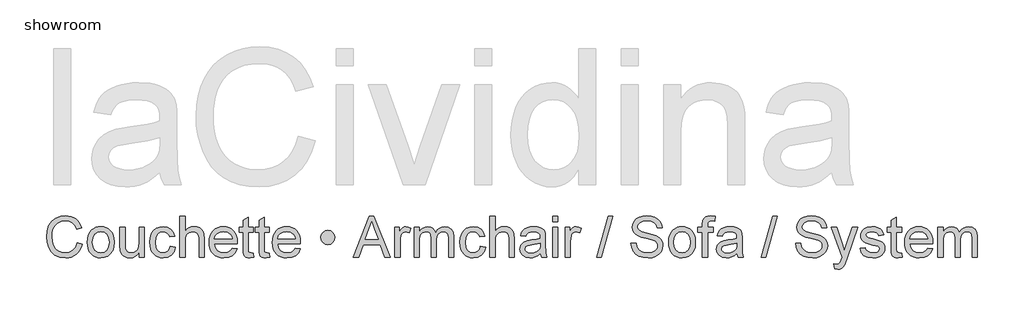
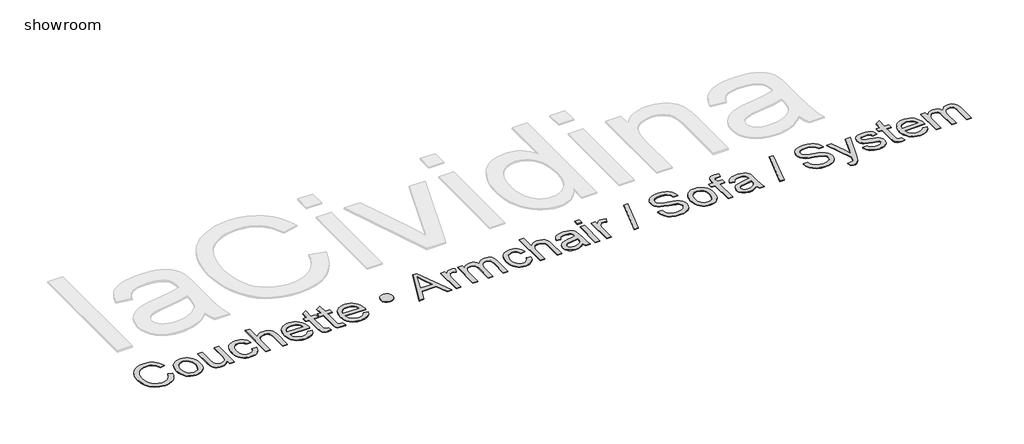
# One storey, part 4 of 5: 1 proxy.
"""IFC4 building model written with IfcOpenShell, lengths in millimetres."""

from ifc_helpers import new_model, si_unit, origin, origin_with_axes, place, context, project, spatial, polyline, outline, extrude, element, save

model = new_model("IFC4")

# Units and contexts
model_context = context("Model", 3, world=origin())
ifc_project = project(units=[si_unit("LENGTHUNIT", "METRE", prefix="MILLI")], contexts=[model_context])

# Site, building, storey
site = spatial("IfcSite", under=ifc_project)
building = spatial("IfcBuilding", under=site)
storey = spatial("IfcBuildingStorey", under=building, Name="showroom", Elevation=0.0)

# Proxy
placement = place(None, origin())
element("IfcBuildingElementProxy", 1, Name="300mm Arial", ObjectType="300mm Arial", at=placement, inside=storey, context=model_context, shape_type="SweptSolid", body=[
    extrude(outline(polyline([(-1778.4620684, 4267.2293177), (-1740.7909521, 4257.517233), (-1748.245161, 4234.0900477), (-1758.1733764, 4213.6197139), (-1770.5755981, 4196.1062317), (-1785.4518263, 4181.549601), (-1802.4663686, 4170.1061717), (-1821.2835327, 4161.9322936), (-1841.9033185, 4157.0279667), (-1864.3257261, 4155.3931911), (-1908.0209101, 4160.341204), (-1942.7213793, 4175.1852425), (-1969.3192475, 4199.4102719), (-1988.7066287, 4232.5012573), (-2000.5432319, 4271.4047783), (-2004.4887662, 4313.0674143), (-2000.0281971, 4357.0109186), (-1986.6464895, 4394.9579464), (-1965.0426193, 4425.7036841), (-1935.9155623, 4448.0433183), (-1901.371443, 4461.6457551), (-1863.5163857, 4466.1799007), (-1822.2124347, 4460.3121828), (-1804.2436985, 4452.9775356), (-1788.0637885, 4442.7090294), (-1773.9394191, 4429.7779772), (-1762.1373049, 4414.4556921), (-1745.4998416, 4376.637423), (-1783.170958, 4367.6611024), (-1796.2307688, 4395.1326903), (-1814.0730455, 4413.9774455), (-1836.9185174, 4424.8759497), (-1864.9879137, 4428.5087844), (-1897.3431352, 4424.4804765), (-1923.9226093, 4412.395553), (-1944.0917397, 4393.5232066), (-1957.2159299, 4369.1326303), (-1964.4172199, 4341.5598748), (-1966.8176499, 4313.1409907), (-1963.9757615, 4278.3393539), (-1955.4500963, 4248.2466067), (-1940.9187575, 4224.0123803), (-1920.0598484, 4206.7863059), (-1895.0530697, 4196.494807), (-1868.0781224, 4193.0643074), (-1836.6334089, 4197.7364088), (-1810.4310138, 4211.7527128), (-1790.6481595, 4234.9660667), (-1778.4620684, 4267.2293177)])), origin_with_axes(), (0.0, 0.0, 1.0), 5.0),
    extrude(outline(polyline([(-1703.1198358, 4270.7609848), (-1701.0826893, 4299.4235908), (-1694.9712496, 4324.1222682), (-1684.7855169, 4344.8570172), (-1670.525491, 4361.6278376), (-1656.1688962, 4372.3469993), (-1640.3223792, 4380.0035433), (-1622.9859402, 4384.5974697), (-1604.1595791, 4386.1287785), (-1583.3765456, 4384.2640766), (-1564.5846735, 4378.6699711), (-1547.7839626, 4369.3464617), (-1532.974413, 4356.2935487), (-1520.8871902, 4339.9526903), (-1512.2534597, 4320.765345), (-1507.0732213, 4298.7315128), (-1505.3464752, 4273.8511936), (-1508.3998958, 4235.7938012), (-1517.5601574, 4206.8230941), (-1532.5605458, 4185.1272534), (-1553.1343464, 4168.8944604), (-1577.5709079, 4158.7685084), (-1604.1595791, 4155.3931911), (-1625.2461152, 4157.2509952), (-1644.2127313, 4162.8244074), (-1661.0594274, 4172.1134278), (-1675.7862036, 4185.1180563), (-1687.7446677, 4201.6175638), (-1696.2864277, 4221.3912211), (-1701.4114838, 4244.4390281), (-1703.1198358, 4270.7609848)]), holes=[polyline([(-1665.4487195, 4270.8345612), (-1661.0893179, 4236.7410973), (-1648.0111129, 4212.4516886), (-1628.3294262, 4197.9111527), (-1604.1595791, 4193.0643074), (-1580.1000966, 4197.9387439), (-1560.4551981, 4212.5620532), (-1547.3769931, 4237.1733587), (-1543.0175915, 4272.0117836), (-1547.4045843, 4305.1119661), (-1560.5655627, 4329.0702811), (-1580.2380524, 4343.6108169), (-1604.1595791, 4348.4576622), (-1628.3294262, 4343.629211), (-1648.0111129, 4329.1438575), (-1661.0893179, 4304.909631), (-1665.4487195, 4270.8345612)])]), origin_with_axes(), (0.0, 0.0, 1.0), 5.0),
    extrude(outline(polyline([(-1321.6997832, 4160.1020807), (-1321.6997832, 4198.141079), (-1335.3298111, 4179.438878), (-1351.2039192, 4166.0801631), (-1369.3221075, 4158.0649341), (-1389.6843759, 4155.3931911), (-1408.0324904, 4157.2693893), (-1425.111412, 4162.8979838), (-1439.4404158, 4171.3592697), (-1449.5387765, 4181.733542), (-1460.7591774, 4209.4718444), (-1462.9664693, 4244.4942104), (-1462.9664693, 4381.419889), (-1425.295353, 4381.419889), (-1425.295353, 4262.2261225), (-1423.0144847, 4223.8192422), (-1417.5238459, 4211.0077518), (-1408.1152639, 4201.2680759), (-1395.414138, 4195.1152496), (-1380.0458676, 4193.0643074), (-1363.7946805, 4195.1612348), (-1348.591957, 4201.4520169), (-1336.0563781, 4211.3572396), (-1327.8066243, 4224.2974888), (-1323.2264935, 4242.0202039), (-1321.6997832, 4266.2728245), (-1321.6997832, 4381.419889), (-1284.0286669, 4381.419889), (-1284.0286669, 4160.1020807), (-1321.6997832, 4160.1020807)])), origin_with_axes(), (0.0, 0.0, 1.0), 5.0),
    extrude(outline(polyline([(-1090.9641958, 4240.1532028), (-1053.2930795, 4235.4443133), (-1063.7961105, 4201.9394606), (-1083.5329795, 4176.6199823), (-1110.6458826, 4160.6998889), (-1143.2770155, 4155.3931911), (-1164.4049384, 4157.2440974), (-1183.3485619, 4162.7968163), (-1200.107886, 4172.0513477), (-1214.6829108, 4185.0076917), (-1226.4804265, 4201.4221265), (-1234.9072235, 4221.0509302), (-1239.9633017, 4243.8941029), (-1241.6486611, 4269.9516444), (-1238.7699844, 4303.4748912), (-1230.1339546, 4332.5283718), (-1215.6026158, 4355.9900461), (-1195.0380123, 4372.7378739), (-1170.4359038, 4382.7810524), (-1143.7920503, 4386.1287785), (-1111.9610607, 4381.5302536), (-1086.5128237, 4367.7346787), (-1068.2566797, 4345.477818), (-1058.0019691, 4315.4954354), (-1095.6730854, 4310.7865459), (-1102.5064934, 4327.221674), (-1113.1474801, 4339.0030949), (-1127.0074343, 4346.0940204), (-1143.4977447, 4348.4576622), (-1167.8423358, 4343.803955), (-1187.1653376, 4329.8428332), (-1199.774493, 4305.820139), (-1203.9775447, 4270.981714), (-1199.8664634, 4235.6742395), (-1187.5332196, 4211.5687718), (-1168.5597057, 4197.6904235), (-1144.5278143, 4193.0643074), (-1125.0208715, 4195.9521811), (-1109.0272018, 4204.6158021), (-1097.3929337, 4219.2758996), (-1090.9641958, 4240.1532028)])), origin_with_axes(), (0.0, 0.0, 1.0), 5.0),
    extrude(outline(polyline([(-1020.3308528, 4160.1020807), (-1020.3308528, 4461.4710111), (-982.6597364, 4461.4710111), (-982.6597364, 4350.6649542), (-968.8227749, 4366.1803773), (-953.2843591, 4377.2628224), (-936.0444891, 4383.9122895), (-917.1031649, 4386.1287785), (-894.3496635, 4383.7099544), (-874.7967355, 4376.453482), (-859.400874, 4364.9295785), (-849.1185722, 4349.708461), (-843.3244308, 4328.7943696), (-841.3930503, 4300.1915444), (-841.3930503, 4160.1020807), (-879.0641666, 4160.1020807), (-879.0641666, 4296.2919953), (-882.0624049, 4319.8732312), (-891.0571196, 4336.0232508), (-905.5516703, 4345.3490593), (-925.049416, 4348.4576622), (-940.9695093, 4346.3607348), (-955.9147154, 4340.0699527), (-968.2939445, 4330.1923211), (-976.5161071, 4317.3348454), (-981.1238291, 4300.2467267), (-982.6597364, 4277.6771663), (-982.6597364, 4160.1020807), (-1020.3308528, 4160.1020807)])), origin_with_axes(), (0.0, 0.0, 1.0), 5.0),
    extrude(outline(polyline([(-634.643369, 4226.0265342), (-597.7080167, 4221.3176447), (-611.0161479, 4193.4873717), (-632.252136, 4172.6836449), (-660.9377346, 4159.7158046), (-696.594697, 4155.3931911), (-719.9689993, 4157.257893), (-740.7957187, 4162.8519986), (-759.0748554, 4172.1755079), (-774.8064092, 4185.2284209), (-787.4569513, 4201.6474542), (-796.4930528, 4221.0693243), (-801.9147137, 4243.4940312), (-803.721934, 4268.9215748), (-801.8963196, 4295.2113419), (-796.4194764, 4318.3833091), (-787.2914044, 4338.4374764), (-774.5121036, 4355.3738437), (-758.8219365, 4368.8291277), (-740.9612656, 4378.4400448), (-720.930091, 4384.2065951), (-698.7284126, 4386.1287785), (-677.2418048, 4384.2111936), (-657.8107377, 4378.4584389), (-640.4352112, 4368.8705144), (-625.1152253, 4355.4474201), (-612.6095368, 4338.547841), (-603.6769021, 4318.5304619), (-598.3173212, 4295.3952829), (-596.5307943, 4269.142304), (-596.7515235, 4258.988761), (-766.0508177, 4258.988761), (-759.5301093, 4230.790606), (-744.3825682, 4210.0604556), (-722.5211806, 4197.3133445), (-695.858933, 4193.0643074), (-675.8093643, 4195.0324761), (-658.9235807, 4200.9369821), (-645.2015823, 4211.1457075), (-634.643369, 4226.0265342)]), holes=[polyline([(-766.0508177, 4296.6598773), (-634.2019106, 4296.6598773), (-639.2970762, 4316.5622932), (-649.2850724, 4330.7993264), (-671.2476275, 4344.0430783), (-698.8755654, 4348.4576622), (-724.2686201, 4344.9351921), (-745.265485, 4334.3677818), (-759.8612031, 4317.8958655), (-766.0508177, 4296.6598773)])]), origin_with_axes(), (0.0, 0.0, 1.0), 5.0),
    extrude(outline(polyline([(-478.8085559, 4191.5192031), (-474.0996663, 4158.9984347), (-502.2794271, 4155.3931911), (-520.3608272, 4156.9566896), (-533.8437023, 4161.6471851), (-543.371846, 4168.8760663), (-549.5890517, 4178.054722), (-553.0103543, 4193.8184655), (-554.1507885, 4220.8026099), (-554.1507885, 4343.7487727), (-582.4041257, 4343.7487727), (-582.4041257, 4381.419889), (-554.1507885, 4381.419889), (-554.1507885, 4435.2042367), (-516.4796722, 4457.3507328), (-516.4796722, 4381.419889), (-478.8085559, 4381.419889), (-478.8085559, 4343.7487727), (-516.4796722, 4343.7487727), (-516.4796722, 4221.9062559), (-514.4931094, 4202.4820865), (-508.0551745, 4195.6026932), (-495.2160928, 4193.0643074), (-478.8085559, 4191.5192031)])), origin_with_axes(), (0.0, 0.0, 1.0), 5.0),
    extrude(outline(polyline([(-361.0863174, 4191.5192031), (-356.3774279, 4158.9984347), (-384.5571887, 4155.3931911), (-402.6385888, 4156.9566896), (-416.1214639, 4161.6471851), (-425.6496075, 4168.8760663), (-431.8668133, 4178.054722), (-435.2881158, 4193.8184655), (-436.42855, 4220.8026099), (-436.42855, 4343.7487727), (-464.6818872, 4343.7487727), (-464.6818872, 4381.419889), (-436.42855, 4381.419889), (-436.42855, 4435.2042367), (-398.7574337, 4457.3507328), (-398.7574337, 4381.419889), (-361.0863174, 4381.419889), (-361.0863174, 4343.7487727), (-398.7574337, 4343.7487727), (-398.7574337, 4221.9062559), (-396.7708709, 4202.4820865), (-390.332936, 4195.6026932), (-377.4938544, 4193.0643074), (-361.0863174, 4191.5192031)])), origin_with_axes(), (0.0, 0.0, 1.0), 5.0),
    extrude(outline(polyline([(-168.4633047, 4226.0265342), (-131.5279524, 4221.3176447), (-144.8360836, 4193.4873717), (-166.0720718, 4172.6836449), (-194.7576703, 4159.7158046), (-230.4146327, 4155.3931911), (-253.788935, 4157.257893), (-274.6156544, 4162.8519986), (-292.8947911, 4172.1755079), (-308.6263449, 4185.2284209), (-321.276887, 4201.6474542), (-330.3129885, 4221.0693243), (-335.7346494, 4243.4940312), (-337.5418697, 4268.9215748), (-335.7162553, 4295.2113419), (-330.2394121, 4318.3833091), (-321.1113401, 4338.4374764), (-308.3320393, 4355.3738437), (-292.6418722, 4368.8291277), (-274.7812013, 4378.4400448), (-254.7500267, 4384.2065951), (-232.5483483, 4386.1287785), (-211.0617405, 4384.2111936), (-191.6306734, 4378.4584389), (-174.2551469, 4368.8705144), (-158.935161, 4355.4474201), (-146.4294725, 4338.547841), (-137.4968378, 4318.5304619), (-132.137257, 4295.3952829), (-130.35073, 4269.142304), (-130.5714592, 4258.988761), (-299.8707534, 4258.988761), (-293.350045, 4230.790606), (-278.2025039, 4210.0604556), (-256.3411163, 4197.3133445), (-229.6788687, 4193.0643074), (-209.6293, 4195.0324761), (-192.7435164, 4200.9369821), (-179.021518, 4211.1457075), (-168.4633047, 4226.0265342)]), holes=[polyline([(-299.8707534, 4296.6598773), (-168.0218463, 4296.6598773), (-173.117012, 4316.5622932), (-183.1050081, 4330.7993264), (-205.0675632, 4344.0430783), (-232.6955011, 4348.4576622), (-258.0885558, 4344.9351921), (-279.0854207, 4334.3677818), (-293.6811388, 4317.8958655), (-299.8707534, 4296.6598773)])]), origin_with_axes(), (0.0, 0.0, 1.0), 5.0),
    extrude(outline(polyline([(20.3337352, 4306.1512328), (24.1413139, 4326.0444516), (35.5640498, 4342.7554913), (52.3026806, 4354.0954538), (72.0579437, 4357.8754413), (91.9235715, 4354.0954538), (108.6989904, 4342.7554913), (120.1217264, 4326.0444516), (123.929305, 4306.1512328), (120.1217264, 4286.285605), (108.6989904, 4269.510186), (91.9235715, 4258.0874501), (72.0579437, 4254.2798714), (52.3026806, 4258.0874501), (35.5640498, 4269.510186), (24.1413139, 4286.285605), (20.3337352, 4306.1512328)])), origin_with_axes(), (0.0, 0.0, 1.0), 5.0),
    extrude(outline(polyline([(258.3533861, 4160.1020807), (378.6507985, 4461.4710111), (410.7301085, 4461.4710111), (531.0275209, 4160.1020807), (491.222689, 4160.1020807), (456.7153579, 4254.2798714), (332.5919727, 4254.2798714), (298.158218, 4160.1020807), (258.3533861, 4160.1020807)]), holes=[polyline([(346.4243357, 4291.9509877), (442.9565713, 4291.9509877), (415.80688, 4366.0424216), (394.6904535, 4423.7998948), (375.9284717, 4372.5171447), (346.4243357, 4291.9509877)])]), origin_with_axes(), (0.0, 0.0, 1.0), 5.0),
    extrude(outline(polyline([(566.5649216, 4160.1020807), (566.5649216, 4381.419889), (599.5271484, 4381.419889), (599.5271484, 4348.6783914), (611.7040425, 4367.6611024), (622.9244433, 4378.844715), (634.1816324, 4384.3077626), (646.468891, 4386.1287785), (665.2308727, 4383.2225107), (684.2871601, 4374.5037075), (671.7055959, 4340.7321403), (658.461844, 4346.5262817), (645.2180922, 4348.4576622), (633.9701002, 4346.5998581), (623.9177247, 4341.0264459), (615.7967296, 4332.1604898), (610.3428791, 4320.4250542), (605.7627482, 4299.382204), (604.2360379, 4276.4263675), (604.2360379, 4160.1020807), (566.5649216, 4160.1020807)])), origin_with_axes(), (0.0, 0.0, 1.0), 5.0),
    extrude(outline(polyline([(707.8316078, 4160.1020807), (707.8316078, 4381.419889), (745.5027241, 4381.419889), (745.5027241, 4344.9995714), (756.8334895, 4361.7290052), (771.4016166, 4374.8348013), (788.7104644, 4383.3052842), (808.2633925, 4386.1287785), (829.2142721, 4383.2501019), (846.0080852, 4374.6140721), (858.5528612, 4360.7909061), (866.7566297, 4342.3508211), (880.4878252, 4361.5036775), (896.1504011, 4375.1842892), (913.7443575, 4383.3926562), (933.2696944, 4386.1287785), (961.587411, 4381.5762388), (982.5290936, 4367.9186197), (995.4693428, 4344.7880393), (999.7827592, 4311.8166155), (999.7827592, 4160.1020807), (962.1116429, 4160.1020807), (962.1116429, 4295.6298077), (958.6167639, 4327.0837183), (953.7055393, 4335.7565363), (945.9616233, 4342.5715503), (936.0012182, 4346.9861342), (924.4405265, 4348.4576622), (904.0322729, 4344.6868718), (887.3948096, 4333.3745004), (876.3307586, 4313.747996), (872.6427416, 4285.0348062), (872.6427416, 4160.1020807), (834.9716253, 4160.1020807), (834.9716253, 4299.8236624), (832.7919245, 4321.12403), (826.252822, 4336.3175564), (814.7473126, 4345.4226357), (797.668391, 4348.4576622), (783.1554463, 4346.4343112), (769.7829358, 4340.3642583), (758.7464759, 4330.3946562), (751.2416832, 4316.6726578), (746.9374639, 4297.6347646), (745.5027241, 4271.717478), (745.5027241, 4160.1020807), (707.8316078, 4160.1020807)])), origin_with_axes(), (0.0, 0.0, 1.0), 5.0),
    extrude(outline(polyline([(1197.5561198, 4240.1532028), (1235.2272361, 4235.4443133), (1224.7242051, 4201.9394606), (1204.9873361, 4176.6199823), (1177.874433, 4160.6998889), (1145.2433001, 4155.3931911), (1124.1153772, 4157.2440974), (1105.1717537, 4162.7968163), (1088.4124296, 4172.0513477), (1073.8374048, 4185.0076917), (1062.0398891, 4201.4221265), (1053.6130921, 4221.0509302), (1048.5570139, 4243.8941029), (1046.8716545, 4269.9516444), (1049.7503312, 4303.4748912), (1058.386361, 4332.5283718), (1072.9176998, 4355.9900461), (1093.4823033, 4372.7378739), (1118.0844118, 4382.7810524), (1144.7282653, 4386.1287785), (1176.5592549, 4381.5302536), (1202.0074919, 4367.7346787), (1220.2636359, 4345.477818), (1230.5183465, 4315.4954354), (1192.8472302, 4310.7865459), (1186.0138222, 4327.221674), (1175.3728355, 4339.0030949), (1161.5128813, 4346.0940204), (1145.0225709, 4348.4576622), (1120.6779798, 4343.803955), (1101.354978, 4329.8428332), (1088.7458226, 4305.820139), (1084.5427709, 4270.981714), (1088.6538521, 4235.6742395), (1100.987096, 4211.5687718), (1119.9606099, 4197.6904235), (1143.9925013, 4193.0643074), (1163.4994441, 4195.9521811), (1179.4931138, 4204.6158021), (1191.1273819, 4219.2758996), (1197.5561198, 4240.1532028)])), origin_with_axes(), (0.0, 0.0, 1.0), 5.0),
    extrude(outline(polyline([(1268.1894628, 4160.1020807), (1268.1894628, 4461.4710111), (1305.8605791, 4461.4710111), (1305.8605791, 4350.6649542), (1319.6975407, 4366.1803773), (1335.2359565, 4377.2628224), (1352.4758265, 4383.9122895), (1371.4171507, 4386.1287785), (1394.1706521, 4383.7099544), (1413.7235801, 4376.453482), (1429.1194416, 4364.9295785), (1439.4017434, 4349.708461), (1445.1958848, 4328.7943696), (1447.1272653, 4300.1915444), (1447.1272653, 4160.1020807), (1409.456149, 4160.1020807), (1409.456149, 4296.2919953), (1406.4579107, 4319.8732312), (1397.4631959, 4336.0232508), (1382.9686453, 4345.3490593), (1363.4708996, 4348.4576622), (1347.5508063, 4346.3607348), (1332.6056002, 4340.0699527), (1320.2263711, 4330.1923211), (1312.0042085, 4317.3348454), (1307.3964865, 4300.2467267), (1305.8605791, 4277.6771663), (1305.8605791, 4160.1020807), (1268.1894628, 4160.1020807)])), origin_with_axes(), (0.0, 0.0, 1.0), 5.0),
    extrude(outline(polyline([(1640.1917364, 4188.3554179), (1622.1931098, 4172.9227682), (1603.6610542, 4162.8244074), (1584.1725056, 4157.2509952), (1563.3043994, 4155.3931911), (1531.8228976, 4159.8629574), (1508.6003467, 4173.2722561), (1494.28054, 4193.6345245), (1489.5072711, 4218.9631999), (1491.3098929, 4234.5797906), (1496.7177582, 4248.7616415), (1505.0594825, 4260.9017474), (1515.663681, 4270.3931028), (1542.0408201, 4282.7539379), (1574.6351648, 4288.4193206), (1613.1524097, 4294.3790089), (1639.9710072, 4301.3687668), (1640.1917364, 4309.7564763), (1637.5981683, 4326.5686835), (1629.8174641, 4337.5683551), (1612.4166457, 4345.7353354), (1588.1732222, 4348.4576622), (1565.7324205, 4346.6458434), (1550.0606475, 4341.2103869), (1539.3736756, 4331.1580114), (1531.887277, 4315.4954354), (1494.2161607, 4320.204325), (1500.7552631, 4340.8057167), (1510.5133331, 4356.9925245), (1524.4008784, 4369.3717536), (1543.328407, 4378.5504094), (1566.4773816, 4384.2341862), (1593.0292646, 4386.1287785), (1618.4958957, 4384.4549154), (1638.6834202, 4379.4333262), (1653.9045377, 4371.8825482), (1664.471948, 4362.621119), (1671.4801001, 4351.1707919), (1676.0234427, 4337.0533204), (1677.8628527, 4304.0910936), (1677.8628527, 4257.2229274), (1679.775839, 4191.7767205), (1687.2806317, 4160.1020807), (1649.6095154, 4160.1020807), (1640.1917364, 4188.3554179)]), holes=[polyline([(1640.1917364, 4263.6976505), (1579.4176308, 4252.1461559), (1547.007227, 4246.0393147), (1532.3287354, 4236.1065009), (1527.1783874, 4221.6119503), (1529.9834877, 4210.4099435), (1538.3987883, 4201.2312877), (1552.2403484, 4195.1060525), (1571.3242269, 4193.0643074), (1591.5577366, 4195.3175847), (1609.4368016, 4202.0774163), (1623.9313522, 4212.0378213), (1634.0113188, 4223.8928186), (1638.4810851, 4236.1065009), (1639.9710072, 4253.0290727), (1640.1917364, 4263.6976505)])]), origin_with_axes(), (0.0, 0.0, 1.0), 5.0),
    extrude(outline(polyline([(1729.6606376, 4160.1020807), (1729.6606376, 4381.419889), (1767.3317539, 4381.419889), (1767.3317539, 4160.1020807), (1729.6606376, 4160.1020807)])), origin_with_axes(), (0.0, 0.0, 1.0), 5.0),
    extrude(outline(polyline([(1729.6606376, 4423.7998948), (1729.6606376, 4461.4710111), (1767.3317539, 4461.4710111), (1767.3317539, 4423.7998948), (1729.6606376, 4423.7998948)])), origin_with_axes(), (0.0, 0.0, 1.0), 5.0),
    extrude(outline(polyline([(1823.8384284, 4160.1020807), (1823.8384284, 4381.419889), (1856.8006551, 4381.419889), (1856.8006551, 4348.6783914), (1868.9775492, 4367.6611024), (1880.19795, 4378.844715), (1891.4551391, 4384.3077626), (1903.7423977, 4386.1287785), (1922.5043795, 4383.2225107), (1941.5606668, 4374.5037075), (1928.9791026, 4340.7321403), (1915.7353508, 4346.5262817), (1902.4915989, 4348.4576622), (1891.2436069, 4346.5998581), (1881.1912314, 4341.0264459), (1873.0702364, 4332.1604898), (1867.6163858, 4320.4250542), (1863.0362549, 4299.382204), (1861.5095447, 4276.4263675), (1861.5095447, 4160.1020807), (1823.8384284, 4160.1020807)])), origin_with_axes(), (0.0, 0.0, 1.0), 5.0),
    extrude(outline(polyline([(2054.5740157, 4160.1020807), (2139.3340274, 4461.4710111), (2173.3263238, 4461.4710111), (2088.5663121, 4160.1020807), (2054.5740157, 4160.1020807)])), origin_with_axes(), (0.0, 0.0, 1.0), 5.0),
    extrude(outline(polyline([(2308.8540508, 4263.6976505), (2346.5251671, 4263.6976505), (2350.8477805, 4242.7927561), (2358.6652729, 4225.989746), (2370.8605611, 4212.6540237), (2388.3165618, 4202.1509927), (2409.6537175, 4195.3359788), (2433.4924708, 4193.0643074), (2454.4801386, 4194.7841558), (2472.8558442, 4199.9437007), (2487.745868, 4208.110681), (2498.2764901, 4218.8528353), (2504.5396811, 4231.1860792), (2506.6274114, 4244.1263284), (2505.0639129, 4256.7354838), (2500.3734175, 4267.6339879), (2490.8452738, 4276.9322053), (2474.7688306, 4284.7405006), (2419.9176251, 4299.1246866), (2383.9111749, 4308.6436333), (2360.8725649, 4317.7027274), (2342.1197802, 4330.3762621), (2328.8300431, 4345.7353354), (2320.9113832, 4363.4488535), (2318.2718299, 4383.1857225), (2321.5367826, 4405.2494452), (2331.3316407, 4425.8232458), (2347.3988868, 4443.2608524), (2369.4810036, 4455.915993), (2395.9869014, 4463.6139237), (2425.3254905, 4466.1799007), (2457.1104949, 4463.4943621), (2484.9223737, 4455.4377464), (2507.7678456, 4442.1756005), (2524.6536292, 4423.8734712), (2535.3406011, 4401.6717928), (2539.5896382, 4376.7109994), (2501.9185219, 4376.7109994), (2495.0023404, 4399.1885893), (2480.5813661, 4415.4121853), (2458.0485939, 4425.2346346), (2426.7970185, 4428.5087844), (2394.809679, 4425.2714228), (2372.865518, 4415.5593381), (2360.1735891, 4401.2671226), (2355.9429462, 4384.2893685), (2358.9411844, 4369.813212), (2367.9358992, 4358.1697469), (2389.1994785, 4347.7586864), (2429.4457688, 4337.1268968), (2470.9796461, 4327.028536), (2496.1059863, 4318.2177622), (2517.5810978, 4304.5509461), (2532.5630921, 4287.6835566), (2541.3646688, 4267.7995348), (2544.2985277, 4245.0828216), (2540.9232104, 4221.8602706), (2530.7972585, 4200.0172771), (2514.3345392, 4181.2185072), (2491.9489198, 4167.1286268), (2465.0291548, 4158.32705), (2434.9639987, 4155.3931911), (2398.0562376, 4158.5569763), (2367.6783818, 4168.0483318), (2343.4809436, 4183.9040458), (2325.114435, 4206.1609065), (2313.323817, 4233.2738095), (2308.8540508, 4263.6976505)])), origin_with_axes(), (0.0, 0.0, 1.0), 5.0),
    extrude(outline(polyline([(2586.6785336, 4270.7609848), (2588.7156801, 4299.4235908), (2594.8271197, 4324.1222682), (2605.0128525, 4344.8570172), (2619.2728783, 4361.6278376), (2633.6294732, 4372.3469993), (2649.4759901, 4380.0035433), (2666.8124292, 4384.5974697), (2685.6387903, 4386.1287785), (2706.4218237, 4384.2640766), (2725.2136959, 4378.6699711), (2742.0144068, 4369.3464617), (2756.8239563, 4356.2935487), (2768.9111791, 4339.9526903), (2777.5449097, 4320.765345), (2782.725148, 4298.7315128), (2784.4518942, 4273.8511936), (2781.3984736, 4235.7938012), (2772.2382119, 4206.8230941), (2757.2378236, 4185.1272534), (2736.664023, 4168.8944604), (2712.2274615, 4158.7685084), (2685.6387903, 4155.3931911), (2664.5522541, 4157.2509952), (2645.585638, 4162.8244074), (2628.7389419, 4172.1134278), (2614.0121658, 4185.1180563), (2602.0537017, 4201.6175638), (2593.5119416, 4221.3912211), (2588.3868856, 4244.4390281), (2586.6785336, 4270.7609848)]), holes=[polyline([(2624.3496499, 4270.8345612), (2628.7090515, 4236.7410973), (2641.7872564, 4212.4516886), (2661.4689432, 4197.9111527), (2685.6387903, 4193.0643074), (2709.6982727, 4197.9387439), (2729.3431713, 4212.5620532), (2742.4213762, 4237.1733587), (2746.7807779, 4272.0117836), (2742.3937851, 4305.1119661), (2729.2328067, 4329.0702811), (2709.560317, 4343.6108169), (2685.6387903, 4348.4576622), (2661.4689432, 4343.629211), (2641.7872564, 4329.1438575), (2628.7090515, 4304.909631), (2624.3496499, 4270.8345612)])]), origin_with_axes(), (0.0, 0.0, 1.0), 5.0),
    extrude(outline(polyline([(2836.2496791, 4160.1020807), (2836.2496791, 4343.7487727), (2803.2874523, 4343.7487727), (2803.2874523, 4381.419889), (2836.2496791, 4381.419889), (2836.2496791, 4403.7135379), (2840.2228046, 4435.1306603), (2847.8011737, 4447.6570422), (2859.4998212, 4457.571462), (2875.87057, 4464.027791), (2897.4652431, 4466.1799007), (2931.8254214, 4462.0596223), (2926.3071915, 4426.7429508), (2904.6021538, 4428.5087844), (2890.2823471, 4426.9452859), (2880.8737651, 4422.2547904), (2875.6590378, 4413.2968639), (2873.9207954, 4398.9310719), (2873.9207954, 4381.419889), (2916.3008012, 4381.419889), (2916.3008012, 4343.7487727), (2873.9207954, 4343.7487727), (2873.9207954, 4160.1020807), (2836.2496791, 4160.1020807)])), origin_with_axes(), (0.0, 0.0, 1.0), 5.0),
    extrude(outline(polyline([(3090.5297142, 4188.3554179), (3072.5310875, 4172.9227682), (3053.999032, 4162.8244074), (3034.5104833, 4157.2509952), (3013.6423772, 4155.3931911), (2982.1608754, 4159.8629574), (2958.9383245, 4173.2722561), (2944.6185178, 4193.6345245), (2939.8452489, 4218.9631999), (2941.6478707, 4234.5797906), (2947.055736, 4248.7616415), (2955.3974603, 4260.9017474), (2966.0016588, 4270.3931028), (2992.3787978, 4282.7539379), (3024.9731426, 4288.4193206), (3063.4903875, 4294.3790089), (3090.308985, 4301.3687668), (3090.5297142, 4309.7564763), (3087.9361461, 4326.5686835), (3080.1554419, 4337.5683551), (3062.7546235, 4345.7353354), (3038.5112, 4348.4576622), (3016.0703983, 4346.6458434), (3000.3986253, 4341.2103869), (2989.7116534, 4331.1580114), (2982.2252548, 4315.4954354), (2944.5541385, 4320.204325), (2951.0932409, 4340.8057167), (2960.8513109, 4356.9925245), (2974.7388562, 4369.3717536), (2993.6663848, 4378.5504094), (3016.8153594, 4384.2341862), (3043.3672424, 4386.1287785), (3068.8338735, 4384.4549154), (3089.021398, 4379.4333262), (3104.2425155, 4371.8825482), (3114.8099258, 4362.621119), (3121.8180778, 4351.1707919), (3126.3614205, 4337.0533204), (3128.2008305, 4304.0910936), (3128.2008305, 4257.2229274), (3130.1138168, 4191.7767205), (3137.6186095, 4160.1020807), (3099.9474932, 4160.1020807), (3090.5297142, 4188.3554179)]), holes=[polyline([(3090.5297142, 4263.6976505), (3029.7556085, 4252.1461559), (2997.3452048, 4246.0393147), (2982.6667132, 4236.1065009), (2977.5163652, 4221.6119503), (2980.3214654, 4210.4099435), (2988.7367661, 4201.2312877), (3002.5783262, 4195.1060525), (3021.6622047, 4193.0643074), (3041.8957144, 4195.3175847), (3059.7747794, 4202.0774163), (3074.26933, 4212.0378213), (3084.3492966, 4223.8928186), (3088.8190629, 4236.1065009), (3090.308985, 4253.0290727), (3090.5297142, 4263.6976505)])]), origin_with_axes(), (0.0, 0.0, 1.0), 5.0),
    extrude(outline(polyline([(3269.4675166, 4160.1020807), (3354.2275283, 4461.4710111), (3388.2198246, 4461.4710111), (3303.459813, 4160.1020807), (3269.4675166, 4160.1020807)])), origin_with_axes(), (0.0, 0.0, 1.0), 5.0),
    extrude(outline(polyline([(3523.7475517, 4263.6976505), (3561.418668, 4263.6976505), (3565.7412814, 4242.7927561), (3573.5587738, 4225.989746), (3585.754062, 4212.6540237), (3603.2100626, 4202.1509927), (3624.5472183, 4195.3359788), (3648.3859716, 4193.0643074), (3669.3736395, 4194.7841558), (3687.7493451, 4199.9437007), (3702.6393689, 4208.110681), (3713.169991, 4218.8528353), (3719.433182, 4231.1860792), (3721.5209123, 4244.1263284), (3719.9574138, 4256.7354838), (3715.2669184, 4267.6339879), (3705.7387747, 4276.9322053), (3689.6623315, 4284.7405006), (3634.811126, 4299.1246866), (3598.8046757, 4308.6436333), (3575.7660658, 4317.7027274), (3557.0132811, 4330.3762621), (3543.723544, 4345.7353354), (3535.8048841, 4363.4488535), (3533.1653307, 4383.1857225), (3536.4302835, 4405.2494452), (3546.2251416, 4425.8232458), (3562.2923877, 4443.2608524), (3584.3745045, 4455.915993), (3610.8804022, 4463.6139237), (3640.2189913, 4466.1799007), (3672.0039957, 4463.4943621), (3699.8158746, 4455.4377464), (3722.6613465, 4442.1756005), (3739.54713, 4423.8734712), (3750.234102, 4401.6717928), (3754.483139, 4376.7109994), (3716.8120227, 4376.7109994), (3709.8958412, 4399.1885893), (3695.474867, 4415.4121853), (3672.9420948, 4425.2346346), (3641.6905193, 4428.5087844), (3609.7031798, 4425.2714228), (3587.7590188, 4415.5593381), (3575.06709, 4401.2671226), (3570.8364471, 4384.2893685), (3573.8346853, 4369.813212), (3582.8294001, 4358.1697469), (3604.0929794, 4347.7586864), (3644.3392697, 4337.1268968), (3685.8731469, 4327.028536), (3710.9994872, 4318.2177622), (3732.4745987, 4304.5509461), (3747.4565929, 4287.6835566), (3756.2581697, 4267.7995348), (3759.1920286, 4245.0828216), (3755.8167113, 4221.8602706), (3745.6907594, 4200.0172771), (3729.2280401, 4181.2185072), (3706.8424207, 4167.1286268), (3679.9226557, 4158.32705), (3649.8574996, 4155.3931911), (3612.9497385, 4158.5569763), (3582.5718827, 4168.0483318), (3558.3744445, 4183.9040458), (3540.0079359, 4206.1609065), (3528.2173179, 4233.2738095), (3523.7475517, 4263.6976505)])), origin_with_axes(), (0.0, 0.0, 1.0), 5.0),
    extrude(outline(polyline([(3810.9898135, 4075.342069), (3806.280924, 4111.6152337), (3825.4107877, 4108.3042958), (3843.2898527, 4112.4613623), (3854.2527361, 4124.0496451), (3864.553432, 4151.7879476), (3867.496488, 4160.9114211), (3787.4453658, 4381.419889), (3827.1766213, 4381.419889), (3869.6302035, 4258.5473026), (3884.4190597, 4209.398268), (3899.2079159, 4252.8083435), (3942.8387206, 4381.419889), (3982.2756705, 4381.419889), (3905.2411807, 4154.8045799), (3885.2284001, 4105.6555454), (3874.9828866, 4089.9653783), (3863.3762096, 4079.0944653), (3849.8933345, 4072.7485009), (3834.0192264, 4070.6331794), (3810.9898135, 4075.342069)])), origin_with_axes(), (0.0, 0.0, 1.0), 5.0),
    extrude(outline(polyline([(3999.345395, 4226.0265342), (4037.0165113, 4230.7354237), (4042.9578056, 4214.6221924), (4054.4541179, 4202.7763921), (4071.5790248, 4195.4923286), (4094.4061026, 4193.0643074), (4116.9572689, 4195.2899935), (4132.8129829, 4201.9670517), (4142.1939738, 4211.6423482), (4145.3209707, 4222.862749), (4142.1755797, 4232.4644691), (4132.7394065, 4239.7853208), (4093.9646442, 4250.5274751), (4037.2372405, 4268.958363), (4022.8806457, 4278.2197923), (4012.4787823, 4290.4794598), (4006.160409, 4304.9556163), (4004.0542846, 4320.8665126), (4005.7465418, 4335.4622307), (4010.8233133, 4348.9359088), (4018.8247467, 4360.7541179), (4029.2909894, 4370.3834291), (4053.2401073, 4381.5302536), (4085.6505111, 4386.1287785), (4110.1698461, 4384.2801715), (4131.4886077, 4378.7343504), (4148.6319087, 4370.0339412), (4160.6248617, 4358.7215699), (4168.5711128, 4343.9603048), (4173.574308, 4324.9132145), (4135.9031916, 4320.204325), (4131.1483169, 4332.0593223), (4121.7397348, 4340.9896577), (4107.5854751, 4346.5906611), (4088.5935671, 4348.4576622), (4066.9621057, 4346.6734345), (4052.5411315, 4341.3207515), (4044.4293335, 4333.5952296), (4041.7254009, 4324.6924853), (4046.2135612, 4313.7296019), (4060.2666534, 4305.4154688), (4092.7138454, 4297.3956413), (4148.0065093, 4279.6637291), (4162.6114245, 4271.1840491), (4173.6846725, 4259.5773722), (4180.6652334, 4244.8069101), (4182.992087, 4226.8358746), (4180.2605632, 4208.2578338), (4172.0659918, 4190.7834391), (4158.7210724, 4175.7830507), (4140.5385048, 4164.6270292), (4118.5759497, 4157.7016507), (4093.8910678, 4155.3931911), (4055.9072518, 4159.8445633), (4028.1873435, 4173.1986797), (4009.6828791, 4195.3083876), (3999.345395, 4226.0265342)])), origin_with_axes(), (0.0, 0.0, 1.0), 5.0),
    extrude(outline(polyline([(4305.423215, 4191.5192031), (4310.1321046, 4158.9984347), (4281.9523437, 4155.3931911), (4263.8709437, 4156.9566896), (4250.3880685, 4161.6471851), (4240.8599249, 4168.8760663), (4234.6427192, 4178.054722), (4231.2214166, 4193.8184655), (4230.0809824, 4220.8026099), (4230.0809824, 4343.7487727), (4201.8276452, 4343.7487727), (4201.8276452, 4381.419889), (4230.0809824, 4381.419889), (4230.0809824, 4435.2042367), (4267.7520987, 4457.3507328), (4267.7520987, 4381.419889), (4305.423215, 4381.419889), (4305.423215, 4343.7487727), (4267.7520987, 4343.7487727), (4267.7520987, 4221.9062559), (4269.7386615, 4202.4820865), (4276.1765964, 4195.6026932), (4289.015678, 4193.0643074), (4305.423215, 4191.5192031)])), origin_with_axes(), (0.0, 0.0, 1.0), 5.0),
    extrude(outline(polyline([(4498.0462277, 4226.0265342), (4534.98158, 4221.3176447), (4521.6734488, 4193.4873717), (4500.4374607, 4172.6836449), (4471.7518621, 4159.7158046), (4436.0948997, 4155.3931911), (4412.7205974, 4157.257893), (4391.893878, 4162.8519986), (4373.6147414, 4172.1755079), (4357.8831875, 4185.2284209), (4345.2326454, 4201.6474542), (4336.1965439, 4221.0693243), (4330.774883, 4243.4940312), (4328.9676627, 4268.9215748), (4330.7932771, 4295.2113419), (4336.2701203, 4318.3833091), (4345.3981923, 4338.4374764), (4358.1774931, 4355.3738437), (4373.8676602, 4368.8291277), (4391.7283311, 4378.4400448), (4411.7595057, 4384.2065951), (4433.9611841, 4386.1287785), (4455.4477919, 4384.2111936), (4474.8788591, 4378.4584389), (4492.2543855, 4368.8705144), (4507.5743714, 4355.4474201), (4520.0800599, 4338.547841), (4529.0126946, 4318.5304619), (4534.3722755, 4295.3952829), (4536.1588024, 4269.142304), (4535.9380732, 4258.988761), (4366.638779, 4258.988761), (4373.1594874, 4230.790606), (4388.3070285, 4210.0604556), (4410.1684161, 4197.3133445), (4436.8306637, 4193.0643074), (4456.8802324, 4195.0324761), (4473.766016, 4200.9369821), (4487.4880144, 4211.1457075), (4498.0462277, 4226.0265342)]), holes=[polyline([(4366.638779, 4296.6598773), (4498.4876861, 4296.6598773), (4493.3925205, 4316.5622932), (4483.4045243, 4330.7993264), (4461.4419692, 4344.0430783), (4433.8140313, 4348.4576622), (4408.4209766, 4344.9351921), (4387.4241117, 4334.3677818), (4372.8283936, 4317.8958655), (4366.638779, 4296.6598773)])]), origin_with_axes(), (0.0, 0.0, 1.0), 5.0),
    extrude(outline(polyline([(4573.8299187, 4160.1020807), (4573.8299187, 4381.419889), (4611.501035, 4381.419889), (4611.501035, 4344.9995714), (4622.8318005, 4361.7290052), (4637.3999275, 4374.8348013), (4654.7087753, 4383.3052842), (4674.2617034, 4386.1287785), (4695.212583, 4383.2501019), (4712.0063961, 4374.6140721), (4724.5511721, 4360.7909061), (4732.7549406, 4342.3508211), (4746.4861361, 4361.5036775), (4762.148712, 4375.1842892), (4779.7426685, 4383.3926562), (4799.2680053, 4386.1287785), (4827.5857219, 4381.5762388), (4848.5274045, 4367.9186197), (4861.4676537, 4344.7880393), (4865.7810701, 4311.8166155), (4865.7810701, 4160.1020807), (4828.1099538, 4160.1020807), (4828.1099538, 4295.6298077), (4824.6150748, 4327.0837183), (4819.7038502, 4335.7565363), (4811.9599342, 4342.5715503), (4801.9995292, 4346.9861342), (4790.4388375, 4348.4576622), (4770.0305838, 4344.6868718), (4753.3931205, 4333.3745004), (4742.3290695, 4313.747996), (4738.6410525, 4285.0348062), (4738.6410525, 4160.1020807), (4700.9699362, 4160.1020807), (4700.9699362, 4299.8236624), (4698.7902354, 4321.12403), (4692.251133, 4336.3175564), (4680.7456236, 4345.4226357), (4663.6667019, 4348.4576622), (4649.1537572, 4346.4343112), (4635.7812467, 4340.3642583), (4624.7447868, 4330.3946562), (4617.2399941, 4316.6726578), (4612.9357748, 4297.6347646), (4611.501035, 4271.717478), (4611.501035, 4160.1020807), (4573.8299187, 4160.1020807)])), origin_with_axes(), (0.0, 0.0, 1.0), 5.0),
])

save(model, "model.ifc")
